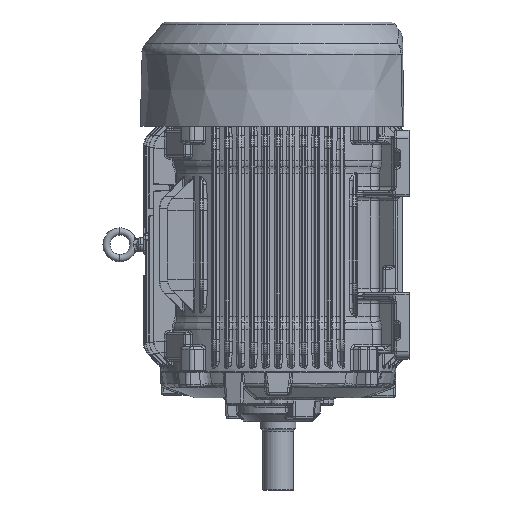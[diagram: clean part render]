
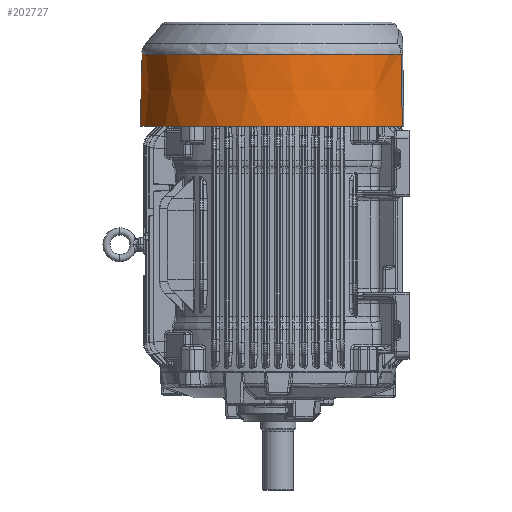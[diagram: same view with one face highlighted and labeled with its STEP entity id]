
A CAD part, left-side view. The second image highlights one B-rep face of the part: STEP entity #202727.
In plain terms, the highlighted conical face has half-angle 1 degrees and reference radius 213.26 mm.
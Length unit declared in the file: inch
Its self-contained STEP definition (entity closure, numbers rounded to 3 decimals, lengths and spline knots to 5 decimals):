
#196834=CARTESIAN_POINT('',(-3.67919,-7.58986,0.));
#196846=CARTESIAN_POINT('',(3.67919,-7.58986,0.));
#196852=CARTESIAN_POINT('',(-3.66361,-7.51176,
-4.41561));
#196853=CARTESIAN_POINT('',(-3.66533,-7.52033,
-3.9314));
#196854=CARTESIAN_POINT('',(-3.66875,-7.53749,
-2.9597));
#196855=CARTESIAN_POINT('',(-3.67365,-7.56204,
-1.57324));
#196856=CARTESIAN_POINT('',(-3.67731,-7.58041,
-0.5345));
#196857=CARTESIAN_POINT('',(-3.67919,-7.58986,0.));
#196859=CARTESIAN_POINT('',(0.,0.,-4.41561));
#196860=DIRECTION('',(0.,0.,-1.));
#196861=DIRECTION('',(-0.438,-0.899,0.));
#196862=AXIS2_PLACEMENT_3D('',#196859,#196860,#196861);
#196864=CARTESIAN_POINT('',(3.67919,-7.58986,0.));
#196865=CARTESIAN_POINT('',(3.67801,-7.58395,
-0.33407));
#196866=CARTESIAN_POINT('',(3.67561,-7.57188,
-1.01657));
#196867=CARTESIAN_POINT('',(3.67188,-7.55319,
-2.07284));
#196868=CARTESIAN_POINT('',(3.66793,-7.53337,
-3.19319));
#196869=CARTESIAN_POINT('',(3.66508,-7.51911,
-3.99919));
#196870=CARTESIAN_POINT('',(3.6636,-7.51174,
-4.41561));
#196872=CARTESIAN_POINT('',(0.,0.,0.));
#196873=DIRECTION('',(0.,0.,1.));
#196874=DIRECTION('',(0.436,-0.9,0.));
#196875=AXIS2_PLACEMENT_3D('',#196872,#196873,#196874);
#201084=VERTEX_POINT('',#196834);
#201087=VERTEX_POINT('',#196852);
#201094=CARTESIAN_POINT('',(3.66351,-7.51179,
-4.41561));
#201095=VERTEX_POINT('',#201094);
#201097=VERTEX_POINT('',#196846);
#202715=CARTESIAN_POINT('',(0.,0.,-2.2078));
#202716=DIRECTION('',(0.,0.,1.));
#202717=DIRECTION('',(0.,1.,0.));
#202718=AXIS2_PLACEMENT_3D('',#202715,#202716,#202717);
#202719=CONICAL_SURFACE('',#202718,8.39606,1.);
#202720=ORIENTED_EDGE('',*,*,#202696,.F.);
#202721=ORIENTED_EDGE('',*,*,#202578,.T.);
#202723=ORIENTED_EDGE('',*,*,#202722,.F.);
#202724=ORIENTED_EDGE('',*,*,#202707,.T.);
#202725=EDGE_LOOP('',(#202720,#202721,#202723,#202724));
#202726=FACE_OUTER_BOUND('',#202725,.F.);
#202727=ADVANCED_FACE('',(#202726),#202719,.T.);
#196858=B_SPLINE_CURVE_WITH_KNOTS('',3,(#196852,#196853,#196854,#196855,#196856,
#196857),.UNSPECIFIED.,.F.,.F.,(4,1,1,4),(0.,0.33333,
0.66667,1.),.UNSPECIFIED.);
#196863=CIRCLE('',#196862,8.35753);
#196871=B_SPLINE_CURVE_WITH_KNOTS('',3,(#196864,#196865,#196866,#196867,#196868,
#196869,#196870),.UNSPECIFIED.,.F.,.F.,(4,1,1,1,4),(0.,0.25,0.5,0.75,
1.),.UNSPECIFIED.);
#196876=CIRCLE('',#196875,8.4346);
#202578=EDGE_CURVE('',#201087,#201095,#196863,.T.);
#202696=EDGE_CURVE('',#201087,#201084,#196858,.T.);
#202707=EDGE_CURVE('',#201097,#201084,#196876,.T.);
#202722=EDGE_CURVE('',#201097,#201095,#196871,.T.);
